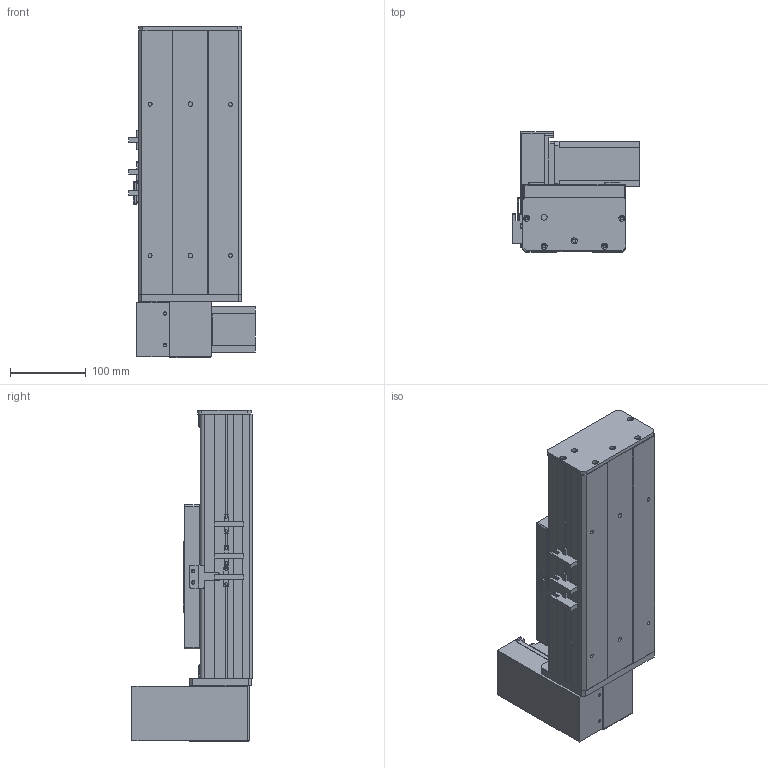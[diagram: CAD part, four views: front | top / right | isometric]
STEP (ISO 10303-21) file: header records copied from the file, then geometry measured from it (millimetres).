
FILE_DESCRIPTION (( 'STEP AP203' ), '1' );
FILE_NAME ('Y135CB-D90-S50-UR-P400W.STEP', '2020-02-18T03:26:30', ( '微软用户' ), ( '微软中国' ), 'SwSTEP 2.0', 'SolidWorks 2017', '' );
FILE_SCHEMA (( 'CONFIG_CONTROL_DESIGN' ));
Length unit declared in the file: millimetre
Products named in the file (18): 0B-源倛裔啣; C-雄赽釱--; 0B-萇儂楊擘啣; Y10B--々湍喘謫眊--666; san松下电机400不带刹车----; Y10B-耜蚾蟀諉啣----; 5CB --掛极耜裔啣-; 00B-俋欶BM--; C-詩湍揤踡え-陔; Y135CB-耜裔; Y135CB-D90-S50-UR-P400W; 135CB--詩湍-CE; 135CB---遴掛极.-; Y100-135俋离換覜ん--; 35CB---喘謫眊楊擘啣; Y135C-陔俋离換覜結え-; 0B-埴倛裔啣; 5C--俋欶
Assembly tree (21 placements, depth 2):
  Y135CB-D90-S50-UR-P400W
    Y135CB-耜裔
    135CB---遴掛极.-
    35CB---喘謫眊楊擘啣
    0B-埴倛裔啣
    0B-源倛裔啣
    0B-萇儂楊擘啣
    san松下电机400不带刹车----
    5CB --掛极耜裔啣-  x2
    C-詩湍揤踡え-陔  x2
    135CB--詩湍-CE
    Y100-135俋离換覜ん--  x3
    Y135C-陔俋离換覜結え-
    5C--俋欶
    C-雄赽釱--
    Y10B--々湍喘謫眊--666
    Y10B-耜蚾蟀諉啣----
    00B-俋欶BM--
Bounding box: 167.5 x 158.7 x 438 mm (x, y, z)
Volume: 1919443.9 mm3; surface area: 725797.9 mm2
Topology: 21 solids, 21 shells, 925 faces, 2437 edges, 1614 vertices
Faces by surface type: plane 456, cylinder 453, cone 16
Entity records: 28347 total; most frequent: DIRECTION 4705, CARTESIAN_POINT 4600, ORIENTED_EDGE 4350, EDGE_CURVE 2175, AXIS2_PLACEMENT_3D 1707, VERTEX_POINT 1442, VECTOR 1291, LINE 1291
